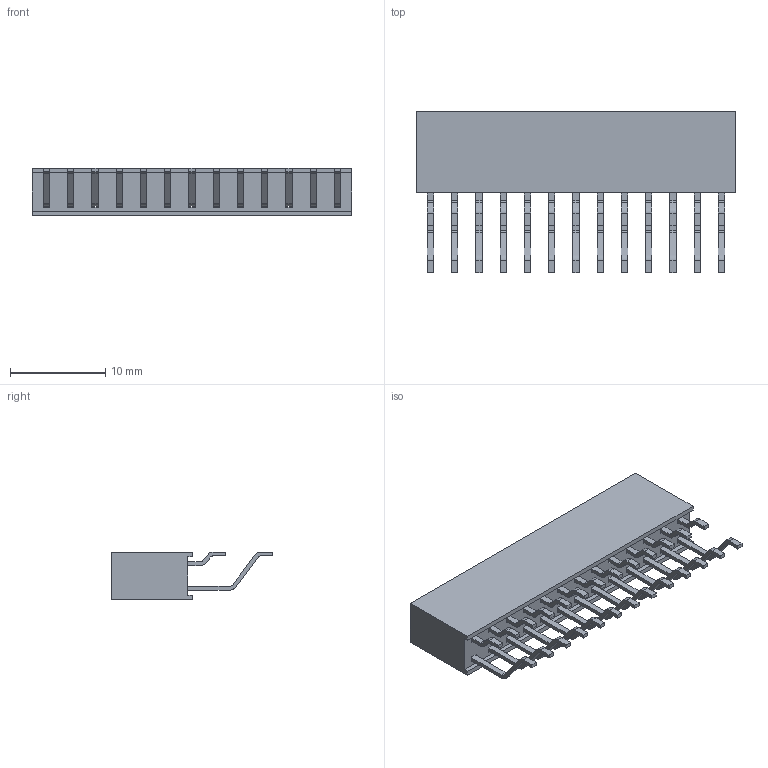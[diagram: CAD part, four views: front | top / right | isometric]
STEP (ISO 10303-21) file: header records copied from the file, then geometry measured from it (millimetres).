
FILE_DESCRIPTION(/* description */ (''),/* implementation_level */ '2;1');
FILE_NAME(/* name */ 'E:\工作文件\排针排母\PM排母\2.54\双排\WS-卧贴\PM254-2-13-WS-8.5(2.54双排 卧贴 排母-HCTL).stp',/* time_stamp */ '2023-12-28T16:34:35+08:00',/* author */ ('admin'),/* organization */ (''),/* preprocessor_version */ 'ST-DEVELOPER v18.1',/* originating_system */ 'Autodesk Inventor 2021',/* authorisation */ '');
FILE_SCHEMA (('AUTOMOTIVE_DESIGN { 1 0 10303 214 3 1 1 }'));
Length unit declared in the file: millimetre
Products named in the file (1): PM254-2-1-WS-8.5(2.54双排 卧贴 
排母-HCTL)
Bounding box: 33.42 x 16.9 x 5 mm (x, y, z)
Volume: 1334.2 mm3; surface area: 1996.4 mm2
Topology: 1 solids, 1 shells, 582 faces, 1688 edges, 1056 vertices
Faces by surface type: plane 478, cylinder 104
Entity records: 18945 total; most frequent: ORIENTED_EDGE 3376, CARTESIAN_POINT 3327, DIRECTION 3062, EDGE_CURVE 1688, LINE 1480, VECTOR 1480, VERTEX_POINT 1056, AXIS2_PLACEMENT_3D 791
